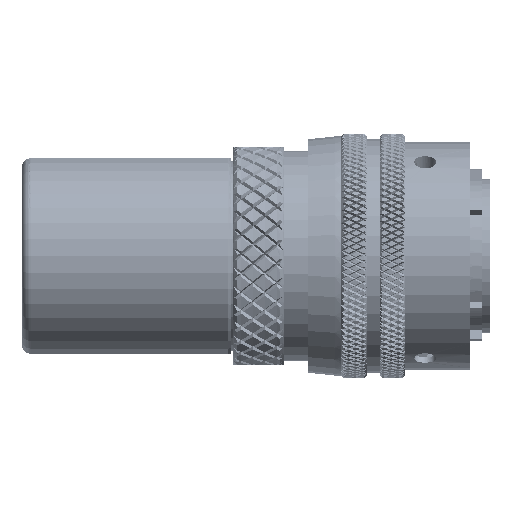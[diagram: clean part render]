
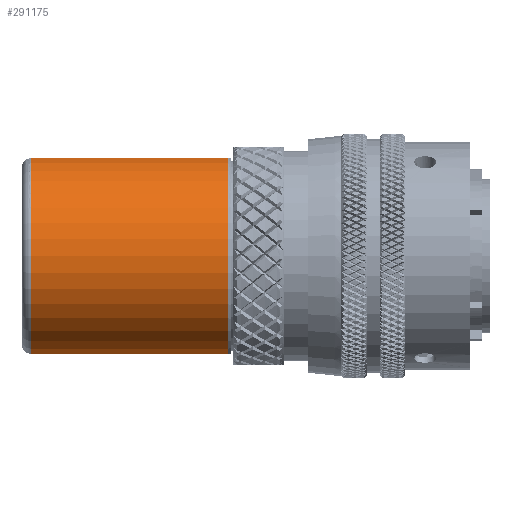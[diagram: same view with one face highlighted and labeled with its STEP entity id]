
A CAD part, left-side view. The second image highlights one B-rep face of the part: STEP entity #291175.
In plain terms, the highlighted cylindrical face has radius 11.75 mm (diameter 23.5 mm), a partial arc.
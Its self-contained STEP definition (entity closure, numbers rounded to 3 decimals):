
#34 = EDGE_CURVE ( 'NONE', #148310, #180393, #227505, .T. ) ;
#2228 = DIRECTION ( 'NONE',  ( -0.225, 0., -0.974 ) ) ;
#8324 = CIRCLE ( 'NONE', #248325, 11.75 ) ;
#27003 = VECTOR ( 'NONE', #90017, 1000. ) ;
#40022 = CARTESIAN_POINT ( 'NONE',  ( 0., 43.158, 0. ) ) ;
#40735 = AXIS2_PLACEMENT_3D ( 'NONE', #40022, #226910, #85540 ) ;
#50672 = DIRECTION ( 'NONE',  ( 1., 0., 0. ) ) ;
#58626 = LINE ( 'NONE', #140757, #27003 ) ;
#71517 = ORIENTED_EDGE ( 'NONE', *, *, #288845, .T. ) ;
#85540 = DIRECTION ( 'NONE',  ( -0.225, 0., 0.974 ) ) ;
#90017 = DIRECTION ( 'NONE',  ( 0., 1., 0. ) ) ;
#95976 = EDGE_CURVE ( 'NONE', #231354, #284359, #58626, .T. ) ;
#117320 = EDGE_LOOP ( 'NONE', ( #71517, #199418, #296662, #226435 ) ) ;
#120977 = DIRECTION ( 'NONE',  ( 0., -1., 0. ) ) ;
#125849 = CARTESIAN_POINT ( 'NONE',  ( -2.638, 19.958, -11.45 ) ) ;
#135577 = CARTESIAN_POINT ( 'NONE',  ( -2.638, 19.958, 11.45 ) ) ;
#136788 = DIRECTION ( 'NONE',  ( 0., 1., 0. ) ) ;
#140602 = CARTESIAN_POINT ( 'NONE',  ( -2.638, 43.158, 11.45 ) ) ;
#140757 = CARTESIAN_POINT ( 'NONE',  ( -2.638, 19.958, -11.45 ) ) ;
#148310 = VERTEX_POINT ( 'NONE', #140602 ) ;
#180393 = VERTEX_POINT ( 'NONE', #135577 ) ;
#199418 = ORIENTED_EDGE ( 'NONE', *, *, #34, .F. ) ;
#202613 = CIRCLE ( 'NONE', #40735, 11.75 ) ;
#213685 = CARTESIAN_POINT ( 'NONE',  ( 0., 19.958, 0. ) ) ;
#226435 = ORIENTED_EDGE ( 'NONE', *, *, #95976, .F. ) ;
#226910 = DIRECTION ( 'NONE',  ( 0., -1., 0. ) ) ;
#227505 = LINE ( 'NONE', #304466, #248382 ) ;
#231354 = VERTEX_POINT ( 'NONE', #125849 ) ;
#234154 = CARTESIAN_POINT ( 'NONE',  ( 0., 10.958, 0. ) ) ;
#248325 = AXIS2_PLACEMENT_3D ( 'NONE', #213685, #136788, #2228 ) ;
#248382 = VECTOR ( 'NONE', #120977, 1000. ) ;
#260417 = CYLINDRICAL_SURFACE ( 'NONE', #299165, 11.75 ) ;
#284359 = VERTEX_POINT ( 'NONE', #312644 ) ;
#286607 = FACE_OUTER_BOUND ( 'NONE', #117320, .T. ) ;
#288845 = EDGE_CURVE ( 'NONE', #231354, #180393, #8324, .T. ) ;
#291175 = ADVANCED_FACE ( 'NONE', ( #286607 ), #260417, .T. ) ;
#296662 = ORIENTED_EDGE ( 'NONE', *, *, #311065, .T. ) ;
#299165 = AXIS2_PLACEMENT_3D ( 'NONE', #234154, #314540, #50672 ) ;
#304466 = CARTESIAN_POINT ( 'NONE',  ( -2.638, 43.158, 11.45 ) ) ;
#311065 = EDGE_CURVE ( 'NONE', #148310, #284359, #202613, .T. ) ;
#312644 = CARTESIAN_POINT ( 'NONE',  ( -2.638, 43.158, -11.45 ) ) ;
#314540 = DIRECTION ( 'NONE',  ( 0., 1., 0. ) ) ;
